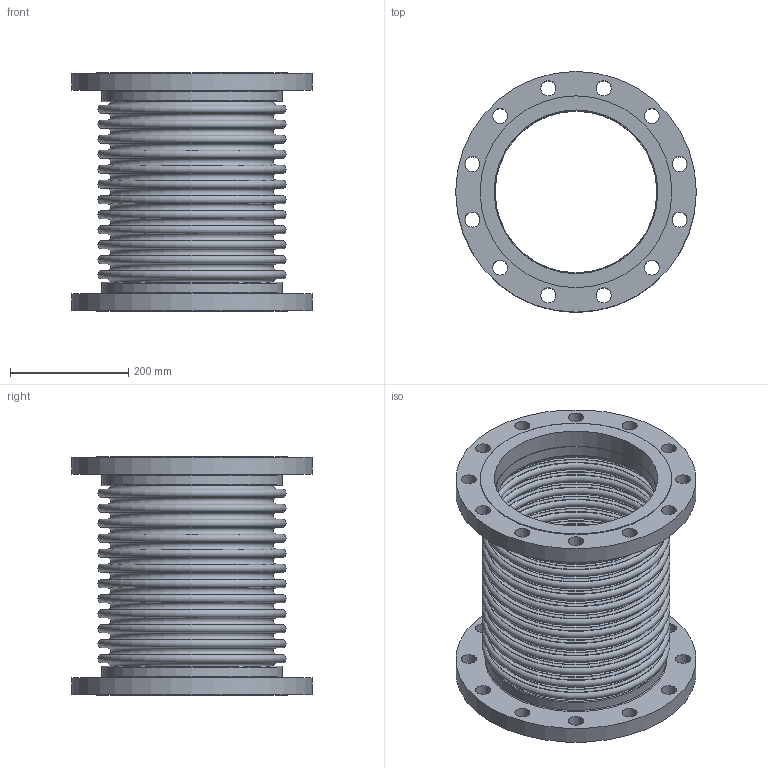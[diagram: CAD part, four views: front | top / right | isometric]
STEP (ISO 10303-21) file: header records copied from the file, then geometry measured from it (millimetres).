
FILE_DESCRIPTION(/* description */ ('EXPANSION JOINT,SINGLE, FLANGED ENDS,10 INCH NOMINAL','CAx-IF Rec.Pracs.---Representation and Presentation of Product Manufacturing Information (PMI)---4.0---2014-10-13'),/* implementation_level */ '2;1');
FILE_NAME(/* name */ 'US-10-12-85L-FLANGED ENDS.stp',/* time_stamp */ '2026-07-31T17:17:22-05:00',/* author */ ('Guadalupe'),/* organization */ (''),/* preprocessor_version */ 'ST-DEVELOPER v20.1',/* originating_system */ 'Autodesk Inventor 2026',/* authorisation */ '');
FILE_SCHEMA (('AP242_MANAGED_MODEL_BASED_3D_ENGINEERING_MIM_LF { 1 0 10303 442 2 1 4 }'));
Length unit declared in the file: inch
Products named in the file (3): 10-85L; 10-85L-02; 10-85L-01
Assembly tree (3 placements, depth 2):
  10-85L
    10-85L-02  x2
    10-85L-01
Bounding box: 406.4 x 406.4 x 403.35 mm (x, y, z)
Volume: 4802691.2 mm3; surface area: 1846839 mm2
Topology: 5 solids, 5 shells, 152 faces, 270 edges, 180 vertices
Faces by surface type: plane 62, torus 54, cylinder 36
Full cylindrical faces by diameter (mm): 25.4 x24, 273.05 x2, 274.879 x2, 276.352 x2, 304.8 x2, 323.85 x2, 406.4 x2
Entity records: 3450 total; most frequent: DIRECTION 710, CARTESIAN_POINT 513, ORIENTED_EDGE 432, AXIS2_PLACEMENT_3D 345, EDGE_CURVE 216, EDGE_LOOP 212, CIRCLE 196, VERTEX_POINT 144
